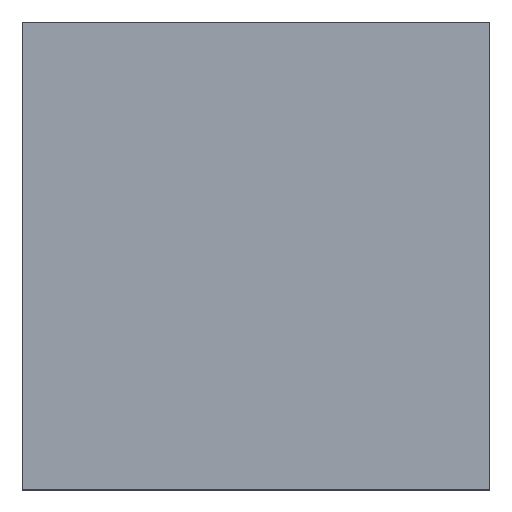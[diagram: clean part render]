
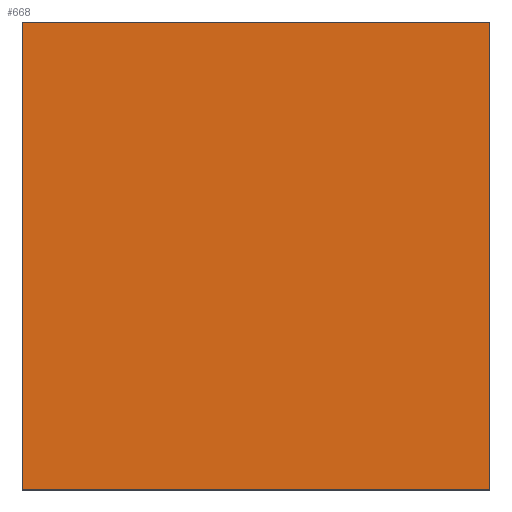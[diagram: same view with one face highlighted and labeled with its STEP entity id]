
A CAD part, top view. The second image highlights one B-rep face of the part: STEP entity #668.
In plain terms, the highlighted planar face has unit normal (0, 0, 1).
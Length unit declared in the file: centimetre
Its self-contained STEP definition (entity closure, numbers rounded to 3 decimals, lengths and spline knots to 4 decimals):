
#10 = ORIENTED_EDGE ( 'NONE', *, *, #1436, .T. ) ;
#24 = CARTESIAN_POINT ( 'NONE',  ( 1000., 1000., 1000. ) ) ;
#46 = AXIS2_PLACEMENT_3D ( 'NONE', #935, #806, #128 ) ;
#50 = LINE ( 'NONE', #278, #821 ) ;
#102 = DIRECTION ( 'NONE',  ( 0., -1., 0. ) ) ;
#128 = DIRECTION ( 'NONE',  ( 1., 0., 0. ) ) ;
#163 = CARTESIAN_POINT ( 'NONE',  ( 0., 0., 1000. ) ) ;
#234 = VERTEX_POINT ( 'NONE', #163 ) ;
#278 = CARTESIAN_POINT ( 'NONE',  ( 1000., 1000., 1000. ) ) ;
#366 = CARTESIAN_POINT ( 'NONE',  ( 0., 1000., 1000. ) ) ;
#375 = EDGE_LOOP ( 'NONE', ( #1131, #1328, #10, #840 ) ) ;
#449 = VERTEX_POINT ( 'NONE', #655 ) ;
#559 = EDGE_CURVE ( 'NONE', #234, #449, #899, .T. ) ;
#635 = LINE ( 'NONE', #1104, #987 ) ;
#655 = CARTESIAN_POINT ( 'NONE',  ( 1000., 0., 1000. ) ) ;
#668 = ADVANCED_FACE ( 'NONE', ( #1259 ), #1251, .T. ) ;
#796 = VECTOR ( 'NONE', #1239, 100. ) ;
#806 = DIRECTION ( 'NONE',  ( 0., 0., 1. ) ) ;
#821 = VECTOR ( 'NONE', #850, 100. ) ;
#831 = CARTESIAN_POINT ( 'NONE',  ( 0., 1000., 1000. ) ) ;
#838 = DIRECTION ( 'NONE',  ( -1., 0., 0. ) ) ;
#840 = ORIENTED_EDGE ( 'NONE', *, *, #1423, .T. ) ;
#850 = DIRECTION ( 'NONE',  ( 0., 1., 0. ) ) ;
#895 = EDGE_CURVE ( 'NONE', #1448, #234, #635, .T. ) ;
#899 = LINE ( 'NONE', #1117, #796 ) ;
#935 = CARTESIAN_POINT ( 'NONE',  ( 0., 0., 1000. ) ) ;
#938 = VERTEX_POINT ( 'NONE', #24 ) ;
#987 = VECTOR ( 'NONE', #102, 100. ) ;
#1104 = CARTESIAN_POINT ( 'NONE',  ( 0., 1000., 1000. ) ) ;
#1117 = CARTESIAN_POINT ( 'NONE',  ( 0., 0., 1000. ) ) ;
#1131 = ORIENTED_EDGE ( 'NONE', *, *, #895, .T. ) ;
#1239 = DIRECTION ( 'NONE',  ( 1., 0., 0. ) ) ;
#1251 = PLANE ( 'NONE',  #46 ) ;
#1259 = FACE_OUTER_BOUND ( 'NONE', #375, .T. ) ;
#1328 = ORIENTED_EDGE ( 'NONE', *, *, #559, .T. ) ;
#1392 = LINE ( 'NONE', #366, #1466 ) ;
#1423 = EDGE_CURVE ( 'NONE', #938, #1448, #1392, .T. ) ;
#1436 = EDGE_CURVE ( 'NONE', #449, #938, #50, .T. ) ;
#1448 = VERTEX_POINT ( 'NONE', #831 ) ;
#1466 = VECTOR ( 'NONE', #838, 100. ) ;
